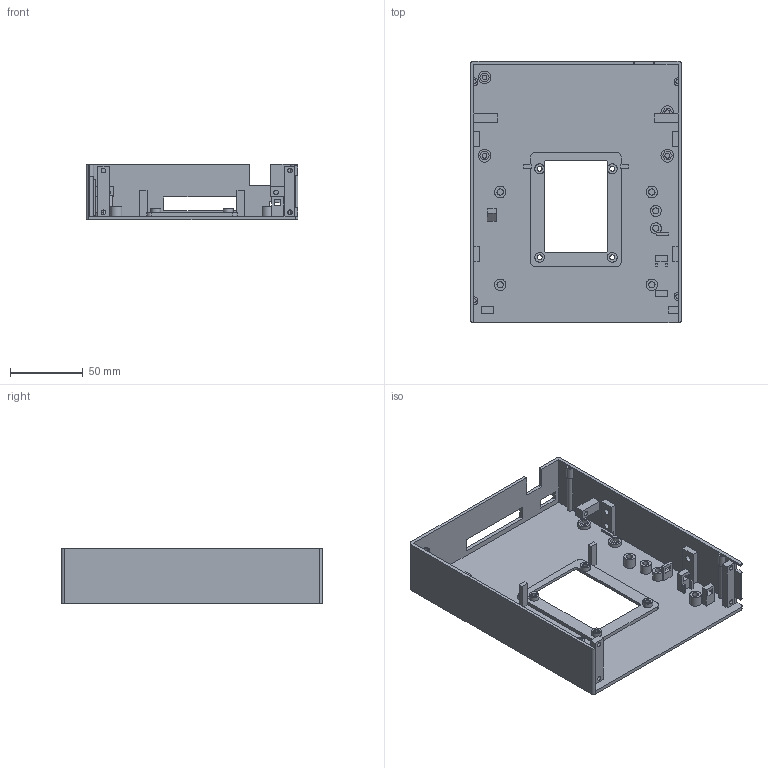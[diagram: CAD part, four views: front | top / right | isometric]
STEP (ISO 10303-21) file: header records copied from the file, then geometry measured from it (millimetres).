
FILE_DESCRIPTION(('Open CASCADE Model'),'2;1');
FILE_NAME('Open CASCADE Shape Model','2026-11-07T16:36:52',('Author'),( 'Open CASCADE'),'Open CASCADE STEP processor 7.9','Open CASCADE 7.9' ,'Unknown');
FILE_SCHEMA(('AUTOMOTIVE_DESIGN { 1 0 10303 214 1 1 1 1 }'));
Length unit declared in the file: millimetre
Products named in the file (1): Open CASCADE STEP translator 7.9 32
Bounding box: 146.05 x 180 x 38.5 mm (x, y, z)
Volume: 110536.2 mm3; surface area: 94343.2 mm2
Topology: 1 solids, 1 shells, 308 faces, 753 edges, 502 vertices
Faces by surface type: plane 226, cylinder 82
Full cylindrical faces by diameter (mm): 3.2 x6, 3.3 x12, 4.2 x2, 4.3 x16, 6.8 x4, 7.6 x1, 8 x4, 8.8 x4
Entity records: 19105 total; most frequent: CARTESIAN_POINT 3646, DIRECTION 2910, LINE 1873, VECTOR 1873, ORIENTED_EDGE 1506, PCURVE 1506, DEFINITIONAL_REPRESENTATION 1506, EDGE_CURVE 753
